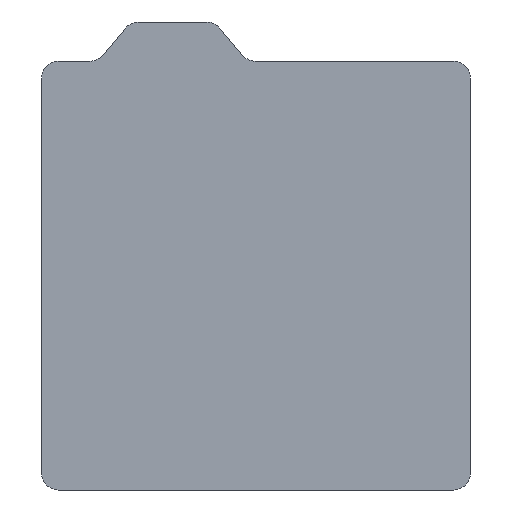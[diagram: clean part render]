
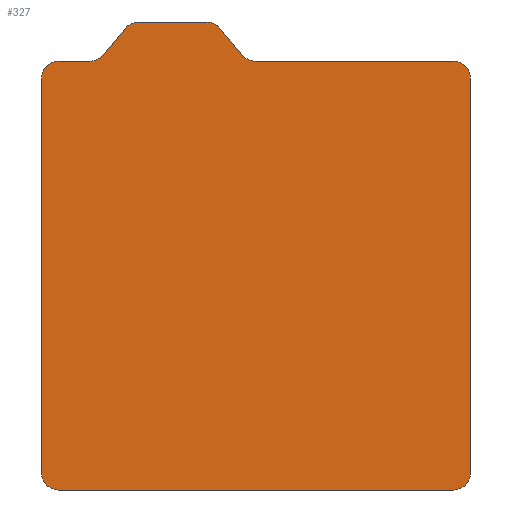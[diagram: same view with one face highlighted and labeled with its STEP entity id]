
A CAD part, front view. The second image highlights one B-rep face of the part: STEP entity #327.
In plain terms, the highlighted planar face has unit normal (0, -1, 0).
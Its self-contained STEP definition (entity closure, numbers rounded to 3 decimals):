
#16=PLANE('',#361);
#27=FACE_OUTER_BOUND('',#45,.T.);
#45=EDGE_LOOP('',(#229,#230,#231,#232,#233,#234,#235,#236,#237,#238,#239,
#240,#241,#242,#243,#244));
#63=LINE('',#505,#95);
#66=LINE('',#511,#98);
#67=LINE('',#515,#99);
#68=LINE('',#519,#100);
#69=LINE('',#523,#101);
#70=LINE('',#527,#102);
#71=LINE('',#531,#103);
#72=LINE('',#535,#104);
#95=VECTOR('',#403,10.);
#98=VECTOR('',#408,10.);
#99=VECTOR('',#411,10.);
#100=VECTOR('',#414,10.);
#101=VECTOR('',#417,10.);
#102=VECTOR('',#420,10.);
#103=VECTOR('',#423,10.);
#104=VECTOR('',#426,10.);
#126=CIRCLE('',#359,3.);
#127=CIRCLE('',#362,3.);
#128=CIRCLE('',#363,3.);
#129=CIRCLE('',#364,3.);
#130=CIRCLE('',#365,3.);
#131=CIRCLE('',#366,3.);
#132=CIRCLE('',#367,3.);
#133=CIRCLE('',#368,3.);
#143=VERTEX_POINT('',#498);
#144=VERTEX_POINT('',#500);
#145=VERTEX_POINT('',#504);
#147=VERTEX_POINT('',#510);
#148=VERTEX_POINT('',#512);
#149=VERTEX_POINT('',#514);
#150=VERTEX_POINT('',#516);
#151=VERTEX_POINT('',#518);
#152=VERTEX_POINT('',#520);
#153=VERTEX_POINT('',#522);
#154=VERTEX_POINT('',#524);
#155=VERTEX_POINT('',#526);
#156=VERTEX_POINT('',#528);
#157=VERTEX_POINT('',#530);
#158=VERTEX_POINT('',#532);
#159=VERTEX_POINT('',#534);
#175=EDGE_CURVE('',#143,#144,#126,.T.);
#177=EDGE_CURVE('',#144,#145,#63,.T.);
#180=EDGE_CURVE('',#147,#143,#66,.T.);
#181=EDGE_CURVE('',#148,#147,#127,.T.);
#182=EDGE_CURVE('',#148,#149,#67,.T.);
#183=EDGE_CURVE('',#150,#149,#128,.T.);
#184=EDGE_CURVE('',#150,#151,#68,.T.);
#185=EDGE_CURVE('',#152,#151,#129,.T.);
#186=EDGE_CURVE('',#152,#153,#69,.T.);
#187=EDGE_CURVE('',#154,#153,#130,.T.);
#188=EDGE_CURVE('',#154,#155,#70,.T.);
#189=EDGE_CURVE('',#156,#155,#131,.T.);
#190=EDGE_CURVE('',#156,#157,#71,.T.);
#191=EDGE_CURVE('',#158,#157,#132,.T.);
#192=EDGE_CURVE('',#159,#158,#72,.T.);
#193=EDGE_CURVE('',#145,#159,#133,.T.);
#229=ORIENTED_EDGE('',*,*,#175,.F.);
#230=ORIENTED_EDGE('',*,*,#180,.F.);
#231=ORIENTED_EDGE('',*,*,#181,.F.);
#232=ORIENTED_EDGE('',*,*,#182,.T.);
#233=ORIENTED_EDGE('',*,*,#183,.F.);
#234=ORIENTED_EDGE('',*,*,#184,.T.);
#235=ORIENTED_EDGE('',*,*,#185,.F.);
#236=ORIENTED_EDGE('',*,*,#186,.T.);
#237=ORIENTED_EDGE('',*,*,#187,.F.);
#238=ORIENTED_EDGE('',*,*,#188,.T.);
#239=ORIENTED_EDGE('',*,*,#189,.F.);
#240=ORIENTED_EDGE('',*,*,#190,.T.);
#241=ORIENTED_EDGE('',*,*,#191,.F.);
#242=ORIENTED_EDGE('',*,*,#192,.F.);
#243=ORIENTED_EDGE('',*,*,#193,.F.);
#244=ORIENTED_EDGE('',*,*,#177,.F.);
#327=ADVANCED_FACE('',(#27),#16,.F.);
#359=AXIS2_PLACEMENT_3D('',#501,#398,#399);
#361=AXIS2_PLACEMENT_3D('',#509,#406,#407);
#362=AXIS2_PLACEMENT_3D('',#513,#409,#410);
#363=AXIS2_PLACEMENT_3D('',#517,#412,#413);
#364=AXIS2_PLACEMENT_3D('',#521,#415,#416);
#365=AXIS2_PLACEMENT_3D('',#525,#418,#419);
#366=AXIS2_PLACEMENT_3D('',#529,#421,#422);
#367=AXIS2_PLACEMENT_3D('',#533,#424,#425);
#368=AXIS2_PLACEMENT_3D('',#536,#427,#428);
#398=DIRECTION('center_axis',(0.,1.,0.));
#399=DIRECTION('ref_axis',(-0.423,0.,0.906));
#403=DIRECTION('',(1.,0.,0.));
#406=DIRECTION('center_axis',(0.,1.,0.));
#407=DIRECTION('ref_axis',(1.,0.,0.));
#408=DIRECTION('',(0.643,0.,0.766));
#409=DIRECTION('center_axis',(0.,-1.,0.));
#410=DIRECTION('ref_axis',(0.423,0.,-0.906));
#411=DIRECTION('',(-1.,0.,0.));
#412=DIRECTION('center_axis',(0.,1.,0.));
#413=DIRECTION('ref_axis',(-0.707,0.,0.707));
#414=DIRECTION('',(0.,0.,-1.));
#415=DIRECTION('center_axis',(0.,1.,0.));
#416=DIRECTION('ref_axis',(-0.707,0.,-0.707));
#417=DIRECTION('',(1.,0.,0.));
#418=DIRECTION('center_axis',(0.,1.,0.));
#419=DIRECTION('ref_axis',(0.707,0.,-0.707));
#420=DIRECTION('',(0.,0.,1.));
#421=DIRECTION('center_axis',(0.,1.,0.));
#422=DIRECTION('ref_axis',(0.707,0.,0.707));
#423=DIRECTION('',(-1.,0.,0.));
#424=DIRECTION('center_axis',(0.,-1.,0.));
#425=DIRECTION('ref_axis',(-0.423,0.,-0.906));
#426=DIRECTION('',(0.643,0.,-0.766));
#427=DIRECTION('center_axis',(0.,1.,0.));
#428=DIRECTION('ref_axis',(0.423,0.,0.906));
#498=CARTESIAN_POINT('',(74.468,0.,30.339));
#500=CARTESIAN_POINT('',(76.767,0.,31.41));
#501=CARTESIAN_POINT('Origin',(76.767,0.,28.41));
#504=CARTESIAN_POINT('',(88.969,0.,31.41));
#505=CARTESIAN_POINT('',(75.368,0.,31.41));
#509=CARTESIAN_POINT('Origin',(97.744,0.,-10.34));
#510=CARTESIAN_POINT('',(70.393,0.,25.482));
#511=CARTESIAN_POINT('',(69.494,0.,24.41));
#512=CARTESIAN_POINT('',(68.095,0.,24.41));
#513=CARTESIAN_POINT('Origin',(68.095,0.,27.41));
#514=CARTESIAN_POINT('',(62.494,0.,24.41));
#515=CARTESIAN_POINT('',(135.994,0.,24.41));
#516=CARTESIAN_POINT('',(59.494,0.,21.41));
#517=CARTESIAN_POINT('Origin',(62.494,0.,21.41));
#518=CARTESIAN_POINT('',(59.494,0.,-49.09));
#519=CARTESIAN_POINT('',(59.494,0.,24.41));
#520=CARTESIAN_POINT('',(62.494,0.,-52.09));
#521=CARTESIAN_POINT('Origin',(62.494,0.,-49.09));
#522=CARTESIAN_POINT('',(132.994,0.,-52.09));
#523=CARTESIAN_POINT('',(59.494,0.,-52.09));
#524=CARTESIAN_POINT('',(135.994,0.,-49.09));
#525=CARTESIAN_POINT('Origin',(132.994,0.,-49.09));
#526=CARTESIAN_POINT('',(135.994,0.,21.41));
#527=CARTESIAN_POINT('',(135.994,0.,-52.09));
#528=CARTESIAN_POINT('',(132.994,0.,24.41));
#529=CARTESIAN_POINT('Origin',(132.994,0.,21.41));
#530=CARTESIAN_POINT('',(97.64,0.,24.41));
#531=CARTESIAN_POINT('',(135.994,0.,24.41));
#532=CARTESIAN_POINT('',(95.342,0.,25.482));
#533=CARTESIAN_POINT('Origin',(97.64,0.,27.41));
#534=CARTESIAN_POINT('',(91.267,0.,30.339));
#535=CARTESIAN_POINT('',(90.368,0.,31.41));
#536=CARTESIAN_POINT('Origin',(88.969,0.,28.41));
